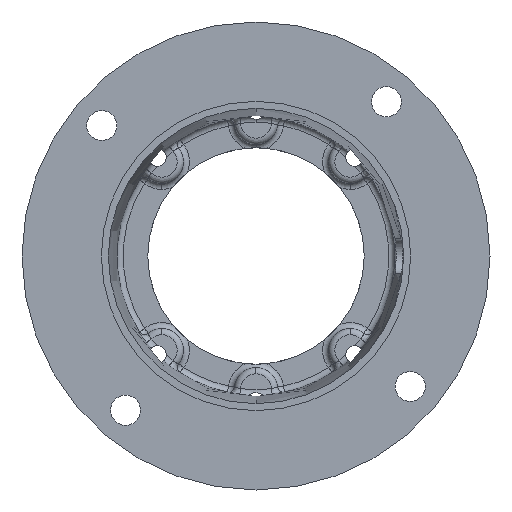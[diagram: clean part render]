
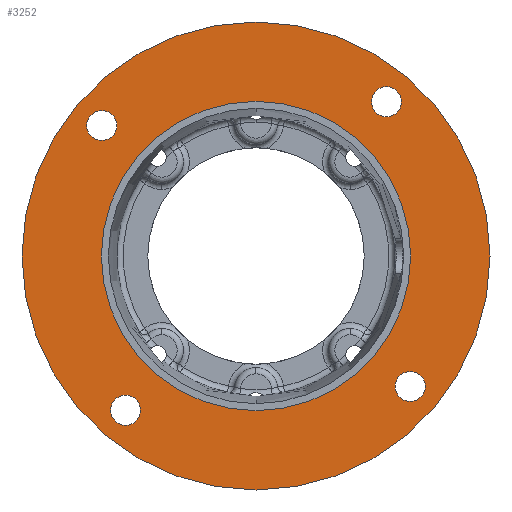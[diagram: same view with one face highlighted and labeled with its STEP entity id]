
A CAD part, front view. The second image highlights one B-rep face of the part: STEP entity #3252.
In plain terms, the highlighted planar face has unit normal (0, -1, 0).
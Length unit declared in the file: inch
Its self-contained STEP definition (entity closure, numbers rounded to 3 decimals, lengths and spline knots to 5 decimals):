
#87 = EDGE_LOOP ( 'NONE', ( #2931, #4959 ) ) ;
#100 = VERTEX_POINT ( 'NONE', #3264 ) ;
#147 = AXIS2_PLACEMENT_3D ( 'NONE', #740, #5391, #1410 ) ;
#193 = ORIENTED_EDGE ( 'NONE', *, *, #4359, .F. ) ;
#196 = CARTESIAN_POINT ( 'NONE',  ( 0., 0.104, 2.2505 ) ) ;
#214 = VERTEX_POINT ( 'NONE', #5372 ) ;
#240 = EDGE_LOOP ( 'NONE', ( #7922, #4213 ) ) ;
#324 = DIRECTION ( 'NONE',  ( 0., -1., 0. ) ) ;
#334 = CARTESIAN_POINT ( 'NONE',  ( 1.89861, 0.104, 2.24475 ) ) ;
#335 = FACE_BOUND ( 'NONE', #2135, .T. ) ;
#373 = DIRECTION ( 'NONE',  ( 0., 0., -1. ) ) ;
#378 = AXIS2_PLACEMENT_3D ( 'NONE', #6703, #2678, #7384 ) ;
#535 = FACE_BOUND ( 'NONE', #3153, .T. ) ;
#647 = AXIS2_PLACEMENT_3D ( 'NONE', #3699, #8431, #4378 ) ;
#740 = CARTESIAN_POINT ( 'NONE',  ( 0., 0.104, 0. ) ) ;
#900 = AXIS2_PLACEMENT_3D ( 'NONE', #334, #4984, #990 ) ;
#958 = AXIS2_PLACEMENT_3D ( 'NONE', #2889, #7599, #3568 ) ;
#990 = DIRECTION ( 'NONE',  ( 0., 0., -1. ) ) ;
#1085 = DIRECTION ( 'NONE',  ( 0., -1., 0. ) ) ;
#1197 = CIRCLE ( 'NONE', #647, 0.21875 ) ;
#1410 = DIRECTION ( 'NONE',  ( 0., 0., -1. ) ) ;
#1449 = EDGE_CURVE ( 'NONE', #5350, #100, #7277, .T. ) ;
#1458 = EDGE_LOOP ( 'NONE', ( #6555, #193 ) ) ;
#1518 = EDGE_CURVE ( 'NONE', #2970, #8366, #1917, .T. ) ;
#1524 = CIRCLE ( 'NONE', #2255, 0.21875 ) ;
#1541 = VERTEX_POINT ( 'NONE', #2452 ) ;
#1665 = DIRECTION ( 'NONE',  ( 0., -1., 0. ) ) ;
#1801 = EDGE_CURVE ( 'NONE', #100, #5350, #4226, .T. ) ;
#1862 = CIRCLE ( 'NONE', #958, 0.21875 ) ;
#1917 = CIRCLE ( 'NONE', #7880, 0.21875 ) ;
#1919 = VERTEX_POINT ( 'NONE', #196 ) ;
#1979 = EDGE_LOOP ( 'NONE', ( #5555, #2675 ) ) ;
#2048 = EDGE_CURVE ( 'NONE', #214, #4825, #1197, .T. ) ;
#2089 = FACE_BOUND ( 'NONE', #87, .T. ) ;
#2135 = EDGE_LOOP ( 'NONE', ( #8569, #2273 ) ) ;
#2183 = ORIENTED_EDGE ( 'NONE', *, *, #2436, .F. ) ;
#2214 = CARTESIAN_POINT ( 'NONE',  ( -1.89861, 0.104, -2.24475 ) ) ;
#2253 = VERTEX_POINT ( 'NONE', #6082 ) ;
#2255 = AXIS2_PLACEMENT_3D ( 'NONE', #7885, #3848, #8568 ) ;
#2273 = ORIENTED_EDGE ( 'NONE', *, *, #4469, .F. ) ;
#2436 = EDGE_CURVE ( 'NONE', #1541, #8343, #1524, .T. ) ;
#2452 = CARTESIAN_POINT ( 'NONE',  ( -2.24475, 0.104, 1.67986 ) ) ;
#2675 = ORIENTED_EDGE ( 'NONE', *, *, #1801, .T. ) ;
#2678 = DIRECTION ( 'NONE',  ( 0., -1., 0. ) ) ;
#2780 = DIRECTION ( 'NONE',  ( 0., -1., 0. ) ) ;
#2878 = DIRECTION ( 'NONE',  ( 0., 0., -1. ) ) ;
#2889 = CARTESIAN_POINT ( 'NONE',  ( 2.24475, 0.104, -1.89861 ) ) ;
#2931 = ORIENTED_EDGE ( 'NONE', *, *, #5858, .F. ) ;
#2970 = VERTEX_POINT ( 'NONE', #5605 ) ;
#3090 = AXIS2_PLACEMENT_3D ( 'NONE', #2214, #6914, #2878 ) ;
#3107 = CIRCLE ( 'NONE', #147, 2.2505 ) ;
#3153 = EDGE_LOOP ( 'NONE', ( #2183, #8355 ) ) ;
#3176 = EDGE_CURVE ( 'NONE', #8343, #1541, #4068, .T. ) ;
#3252 = ADVANCED_FACE ( 'NONE', ( #5439, #535, #2089, #7229, #335, #3649 ), #7710, .T. ) ;
#3264 = CARTESIAN_POINT ( 'NONE',  ( 0., 0.104, 3.405 ) ) ;
#3407 = VERTEX_POINT ( 'NONE', #6732 ) ;
#3432 = DIRECTION ( 'NONE',  ( 0., -1., 0. ) ) ;
#3489 = CARTESIAN_POINT ( 'NONE',  ( 0., 0.104, -2.2505 ) ) ;
#3568 = DIRECTION ( 'NONE',  ( 0., 0., -1. ) ) ;
#3649 = FACE_OUTER_BOUND ( 'NONE', #1979, .T. ) ;
#3670 = AXIS2_PLACEMENT_3D ( 'NONE', #8410, #4351, #373 ) ;
#3699 = CARTESIAN_POINT ( 'NONE',  ( 1.89861, 0.104, 2.24475 ) ) ;
#3848 = DIRECTION ( 'NONE',  ( 0., -1., 0. ) ) ;
#4005 = EDGE_CURVE ( 'NONE', #8459, #1919, #3107, .T. ) ;
#4068 = CIRCLE ( 'NONE', #5179, 0.21875 ) ;
#4213 = ORIENTED_EDGE ( 'NONE', *, *, #2048, .F. ) ;
#4226 = CIRCLE ( 'NONE', #378, 3.405 ) ;
#4306 = CARTESIAN_POINT ( 'NONE',  ( -1.89861, 0.104, -2.24475 ) ) ;
#4351 = DIRECTION ( 'NONE',  ( 0., -1., 0. ) ) ;
#4359 = EDGE_CURVE ( 'NONE', #8366, #2970, #6785, .T. ) ;
#4378 = DIRECTION ( 'NONE',  ( 0., 0., -1. ) ) ;
#4469 = EDGE_CURVE ( 'NONE', #1919, #8459, #8179, .T. ) ;
#4565 = CARTESIAN_POINT ( 'NONE',  ( 0., 0.104, -3.405 ) ) ;
#4791 = AXIS2_PLACEMENT_3D ( 'NONE', #7460, #3432, #8152 ) ;
#4825 = VERTEX_POINT ( 'NONE', #6222 ) ;
#4959 = ORIENTED_EDGE ( 'NONE', *, *, #7069, .F. ) ;
#4979 = DIRECTION ( 'NONE',  ( 0., 0., -1. ) ) ;
#4984 = DIRECTION ( 'NONE',  ( 0., -1., 0. ) ) ;
#5077 = CARTESIAN_POINT ( 'NONE',  ( 0., 0.104, 0. ) ) ;
#5179 = AXIS2_PLACEMENT_3D ( 'NONE', #6810, #2780, #7489 ) ;
#5350 = VERTEX_POINT ( 'NONE', #4565 ) ;
#5372 = CARTESIAN_POINT ( 'NONE',  ( 1.89861, 0.104, 2.4635 ) ) ;
#5391 = DIRECTION ( 'NONE',  ( 0., -1., 0. ) ) ;
#5415 = CARTESIAN_POINT ( 'NONE',  ( -2.24475, 0.104, 2.11736 ) ) ;
#5439 = FACE_BOUND ( 'NONE', #240, .T. ) ;
#5555 = ORIENTED_EDGE ( 'NONE', *, *, #1449, .T. ) ;
#5605 = CARTESIAN_POINT ( 'NONE',  ( -1.89861, 0.104, -2.4635 ) ) ;
#5659 = CARTESIAN_POINT ( 'NONE',  ( 0., 0.104, 0. ) ) ;
#5747 = DIRECTION ( 'NONE',  ( 0., 0., -1. ) ) ;
#5858 = EDGE_CURVE ( 'NONE', #3407, #2253, #8513, .T. ) ;
#6082 = CARTESIAN_POINT ( 'NONE',  ( 2.24475, 0.104, -1.67986 ) ) ;
#6222 = CARTESIAN_POINT ( 'NONE',  ( 1.89861, 0.104, 2.026 ) ) ;
#6328 = DIRECTION ( 'NONE',  ( 0., 0., -1. ) ) ;
#6520 = AXIS2_PLACEMENT_3D ( 'NONE', #5659, #1665, #6328 ) ;
#6555 = ORIENTED_EDGE ( 'NONE', *, *, #1518, .F. ) ;
#6686 = AXIS2_PLACEMENT_3D ( 'NONE', #5077, #1085, #5747 ) ;
#6703 = CARTESIAN_POINT ( 'NONE',  ( 0., 0.104, 0. ) ) ;
#6732 = CARTESIAN_POINT ( 'NONE',  ( 2.24475, 0.104, -2.11736 ) ) ;
#6785 = CIRCLE ( 'NONE', #3090, 0.21875 ) ;
#6786 = CIRCLE ( 'NONE', #900, 0.21875 ) ;
#6810 = CARTESIAN_POINT ( 'NONE',  ( -2.24475, 0.104, 1.89861 ) ) ;
#6914 = DIRECTION ( 'NONE',  ( 0., -1., 0. ) ) ;
#7069 = EDGE_CURVE ( 'NONE', #2253, #3407, #1862, .T. ) ;
#7229 = FACE_BOUND ( 'NONE', #1458, .T. ) ;
#7277 = CIRCLE ( 'NONE', #6520, 3.405 ) ;
#7384 = DIRECTION ( 'NONE',  ( 0., 0., -1. ) ) ;
#7458 = CARTESIAN_POINT ( 'NONE',  ( -1.89861, 0.104, -2.026 ) ) ;
#7460 = CARTESIAN_POINT ( 'NONE',  ( 2.24475, 0.104, -1.89861 ) ) ;
#7489 = DIRECTION ( 'NONE',  ( 0., 0., -1. ) ) ;
#7599 = DIRECTION ( 'NONE',  ( 0., -1., 0. ) ) ;
#7710 = PLANE ( 'NONE',  #3670 ) ;
#7880 = AXIS2_PLACEMENT_3D ( 'NONE', #4306, #324, #4979 ) ;
#7885 = CARTESIAN_POINT ( 'NONE',  ( -2.24475, 0.104, 1.89861 ) ) ;
#7922 = ORIENTED_EDGE ( 'NONE', *, *, #8008, .F. ) ;
#8008 = EDGE_CURVE ( 'NONE', #4825, #214, #6786, .T. ) ;
#8152 = DIRECTION ( 'NONE',  ( 0., 0., -1. ) ) ;
#8179 = CIRCLE ( 'NONE', #6686, 2.2505 ) ;
#8343 = VERTEX_POINT ( 'NONE', #5415 ) ;
#8355 = ORIENTED_EDGE ( 'NONE', *, *, #3176, .F. ) ;
#8366 = VERTEX_POINT ( 'NONE', #7458 ) ;
#8410 = CARTESIAN_POINT ( 'NONE',  ( 0., 0.104, 0. ) ) ;
#8431 = DIRECTION ( 'NONE',  ( 0., -1., 0. ) ) ;
#8459 = VERTEX_POINT ( 'NONE', #3489 ) ;
#8513 = CIRCLE ( 'NONE', #4791, 0.21875 ) ;
#8568 = DIRECTION ( 'NONE',  ( 0., 0., -1. ) ) ;
#8569 = ORIENTED_EDGE ( 'NONE', *, *, #4005, .F. ) ;
